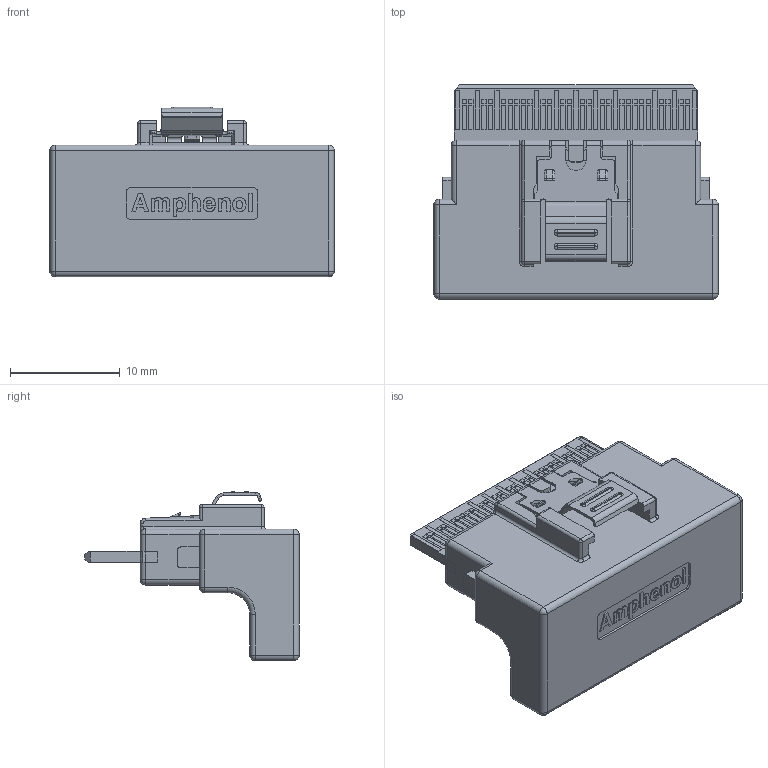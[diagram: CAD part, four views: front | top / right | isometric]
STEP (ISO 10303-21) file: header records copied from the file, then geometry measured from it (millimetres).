
FILE_DESCRIPTION((''),'2;1');
FILE_NAME('X8_VERTICAL_ASM','2015-02-05T',('bobtang'),(''),'PRO/ENGINEER BY PARAMETRIC TECHNOLOGY CORPORATION, 2012130','PRO/ENGINEER BY PARAMETRIC TECHNOLOGY CORPORATION, 2012130','');
FILE_SCHEMA(('CONFIG_CONTROL_DESIGN'));
Length unit declared in the file: millimetre
Products named in the file (5): PLUG_PCB_4; OVERMOLD_7; LATCH_0828_2; PLUG_ASM_14_ASM; X8_VERTICAL_ASM
Assembly tree (4 placements, depth 3):
  X8_VERTICAL_ASM
    PLUG_ASM_14_ASM
      PLUG_PCB_4
      OVERMOLD_7
      LATCH_0828_2
Bounding box: 25.95 x 19.55 x 15.44 mm (x, y, z)
Volume: 2763.7 mm3; surface area: 2558.6 mm2
Topology: 3 solids, 6 shells, 1307 faces, 3323 edges, 2168 vertices
Faces by surface type: plane 992, extrusion 146, cylinder 127, sphere 18, bspline 12, torus 12
Entity records: 39911 total; most frequent: CARTESIAN_POINT 8678, ORIENTED_EDGE 6610, DIRECTION 5747, EDGE_CURVE 3305, VECTOR 2835, LINE 2689, VERTEX_POINT 2168, EDGE_LOOP 1471
